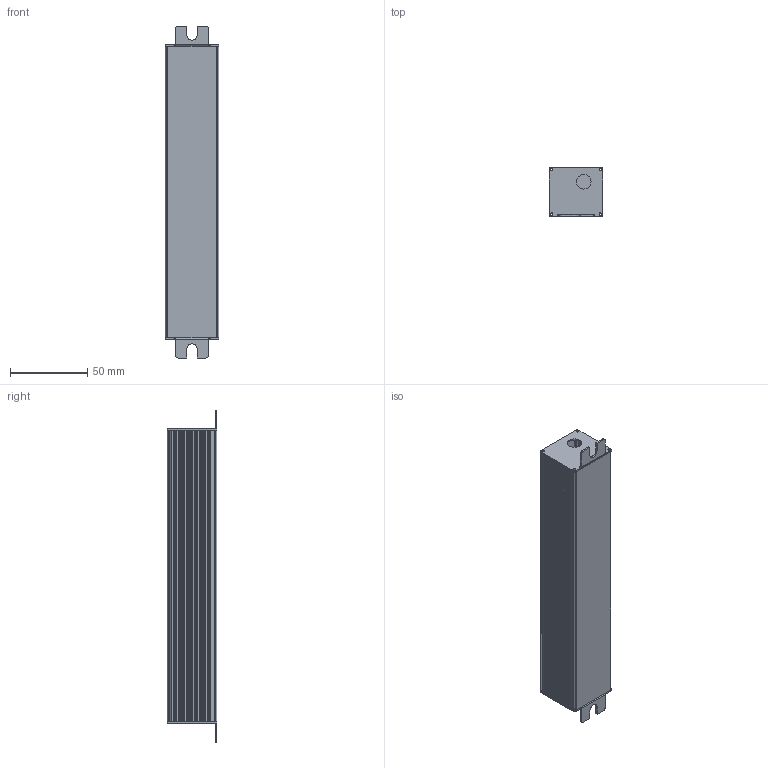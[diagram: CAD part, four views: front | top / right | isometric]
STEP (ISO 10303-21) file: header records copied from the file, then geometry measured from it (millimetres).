
FILE_DESCRIPTION((''),'2;1');
FILE_NAME('SLV096_CASE_YITISHI_ASM','2025-08-13T17:15:22',('Administrator'),(''),'CREO PARAMETRIC BY PTC INC, 2020053','CREO PARAMETRIC BY PTC INC, 2020053','');
FILE_SCHEMA(('CONFIG_CONTROL_DESIGN','SHAPE_APPEARANCE_LAYERS_GROUPS'));
Length unit declared in the file: millimetre
Products named in the file (3): SLV096_YITISHI; SLV096_CEGAI_YITISHI; SLV096_CASE_YITISHI_ASM
Assembly tree (3 placements, depth 2):
  SLV096_CASE_YITISHI_ASM
    SLV096_YITISHI
    SLV096_CEGAI_YITISHI  x2
Bounding box: 34.5 x 32 x 215 mm (x, y, z)
Volume: 26593.7 mm3; surface area: 56949.4 mm2
Topology: 3 solids, 3 shells, 242 faces, 692 edges, 456 vertices
Faces by surface type: cylinder 152, plane 86, bspline 4
Entity records: 10246 total; most frequent: CARTESIAN_POINT 1276, DIRECTION 1246, ORIENTED_EDGE 1160, PRESENTATION_STYLE_ASSIGNMENT 782, STYLED_ITEM 782, CURVE_STYLE 580, EDGE_CURVE 580, AXIS2_PLACEMENT_3D 466
